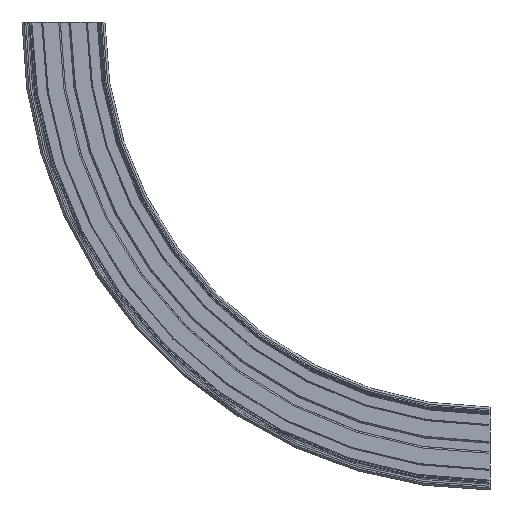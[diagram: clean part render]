
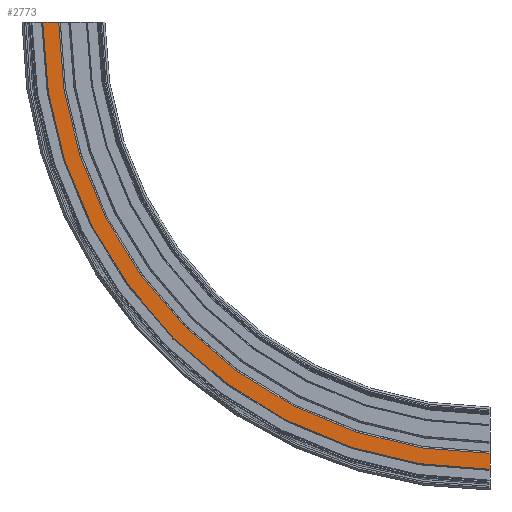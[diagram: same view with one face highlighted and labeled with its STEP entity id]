
A CAD part, left-side view. The second image highlights one B-rep face of the part: STEP entity #2773.
In plain terms, the highlighted planar face has unit normal (-1, 0, 0).
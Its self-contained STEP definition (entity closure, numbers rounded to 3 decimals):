
#267=CIRCLE('',#3020,405.5);
#268=CIRCLE('',#3022,420.5);
#442=FACE_OUTER_BOUND('',#596,.T.);
#596=EDGE_LOOP('',(#2171,#2172,#2173,#2174));
#773=LINE('',#9166,#979);
#774=LINE('',#9168,#980);
#979=VECTOR('',#3622,10.);
#980=VECTOR('',#3623,10.);
#1235=VERTEX_POINT('',#9159);
#1236=VERTEX_POINT('',#9161);
#1237=VERTEX_POINT('',#9165);
#1238=VERTEX_POINT('',#9167);
#1602=EDGE_CURVE('',#1235,#1236,#267,.T.);
#1603=EDGE_CURVE('',#1237,#1235,#773,.T.);
#1604=EDGE_CURVE('',#1238,#1236,#774,.T.);
#1605=EDGE_CURVE('',#1237,#1238,#268,.T.);
#2171=ORIENTED_EDGE('',*,*,#1603,.T.);
#2172=ORIENTED_EDGE('',*,*,#1602,.T.);
#2173=ORIENTED_EDGE('',*,*,#1604,.F.);
#2174=ORIENTED_EDGE('',*,*,#1605,.F.);
#2663=PLANE('',#3021);
#2773=ADVANCED_FACE('',(#442),#2663,.T.);
#3020=AXIS2_PLACEMENT_3D('',#9163,#3618,#3619);
#3021=AXIS2_PLACEMENT_3D('',#9164,#3620,#3621);
#3022=AXIS2_PLACEMENT_3D('',#9169,#3624,#3625);
#3618=DIRECTION('center_axis',(1.,0.,0.));
#3619=DIRECTION('ref_axis',(0.,0.,-1.));
#3620=DIRECTION('center_axis',(-1.,0.,0.));
#3621=DIRECTION('ref_axis',(0.,0.,1.));
#3622=DIRECTION('',(0.,0.,1.));
#3623=DIRECTION('',(0.,-1.,0.));
#3624=DIRECTION('center_axis',(1.,0.,0.));
#3625=DIRECTION('ref_axis',(0.,0.,-1.));
#9159=CARTESIAN_POINT('',(-32.,0.,-5.5));
#9161=CARTESIAN_POINT('',(-32.,405.5,400.));
#9163=CARTESIAN_POINT('Origin',(-32.,0.,400.));
#9164=CARTESIAN_POINT('Origin',(-32.,0.,-20.5));
#9165=CARTESIAN_POINT('',(-32.,0.,-20.5));
#9166=CARTESIAN_POINT('',(-32.,0.,-20.5));
#9167=CARTESIAN_POINT('',(-32.,420.5,400.));
#9168=CARTESIAN_POINT('',(-32.,420.5,400.));
#9169=CARTESIAN_POINT('Origin',(-32.,0.,400.));
